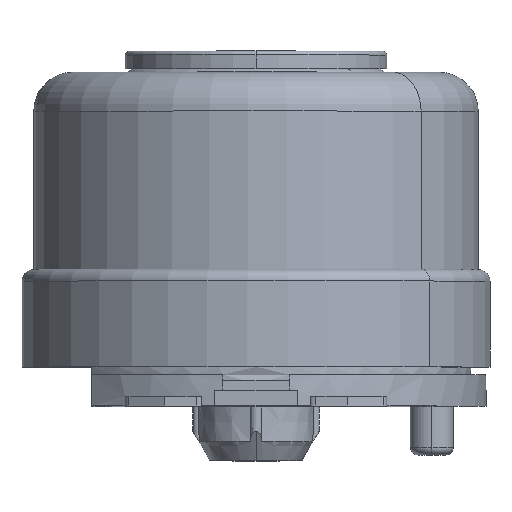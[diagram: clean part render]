
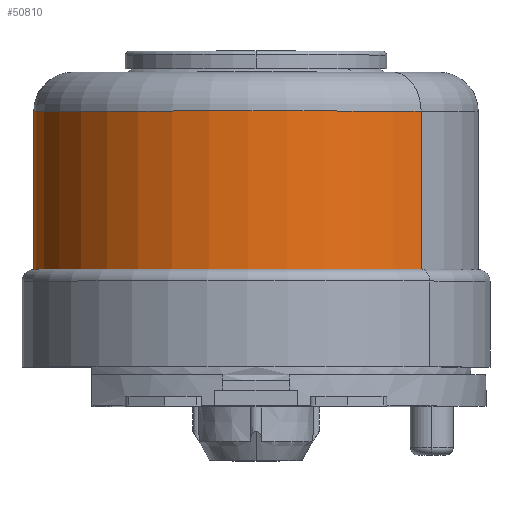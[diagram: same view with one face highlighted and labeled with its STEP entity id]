
A CAD part, top view. The second image highlights one B-rep face of the part: STEP entity #50810.
In plain terms, the highlighted cylindrical face has radius 5.695 mm (diameter 11.39 mm), a partial arc.
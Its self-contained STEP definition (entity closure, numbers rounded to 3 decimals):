
#12760=CARTESIAN_POINT('',(-4.227,0.584,
-3.817));
#12770=DIRECTION('',(0.,-1.,0.));
#12780=VECTOR('',#12770,1.);
#12790=LINE('',#12760,#12780);
#12800=CARTESIAN_POINT('',(-4.227,7.55,-3.817));
#12810=VERTEX_POINT('',#12800);
#12820=CARTESIAN_POINT('',(-4.227,3.5,-3.817));
#12830=VERTEX_POINT('',#12820);
#12840=EDGE_CURVE('',#12810,#12830,#12790,.T.);
#12860=CARTESIAN_POINT('',(0.,3.5,0.
));
#12870=DIRECTION('',(0.,-1.,0.));
#12880=DIRECTION('',(0.742,0.,0.67));
#12890=AXIS2_PLACEMENT_3D('',#12860,#12870,#12880);
#12900=CIRCLE('',#12890,5.695);
#12910=CARTESIAN_POINT('',(4.227,3.5,3.817));
#12920=VERTEX_POINT('',#12910);
#12950=CARTESIAN_POINT('',(4.227,0.584,
3.817));
#12960=DIRECTION('',(0.,-1.,0.));
#12970=VECTOR('',#12960,1.);
#12980=LINE('',#12950,#12970);
#12990=CARTESIAN_POINT('',(4.227,7.55,3.817));
#13000=VERTEX_POINT('',#12990);
#13010=EDGE_CURVE('',#13000,#12920,#12980,.T.);
#13030=CARTESIAN_POINT('',(0.,7.55,
0.));
#13040=DIRECTION('',(0.,1.,0.));
#13050=DIRECTION('',(0.742,0.,0.67));
#13060=AXIS2_PLACEMENT_3D('',#13030,#13040,#13050);
#13070=CIRCLE('',#13060,5.695);
#27050=EDGE_CURVE('',#12810,#13000,#13070,.T.);
#50690=CARTESIAN_POINT('',(0.,0.584,
0.));
#50700=DIRECTION('',(0.,-1.,0.));
#50710=DIRECTION('',(-0.742,0.,-0.67));
#50720=AXIS2_PLACEMENT_3D('',#50690,#50700,#50710);
#50730=CYLINDRICAL_SURFACE('',#50720,5.695);
#50740=ORIENTED_EDGE('',*,*,#12840,.T.);
#50750=ORIENTED_EDGE('',*,*,#27050,.F.);
#50760=ORIENTED_EDGE('',*,*,#13010,.F.);
#50770=EDGE_CURVE('',#12920,#12830,#12900,.T.);
#50780=ORIENTED_EDGE('',*,*,#50770,.F.);
#50790=EDGE_LOOP('',(#50780,#50760,#50750,#50740));
#50800=FACE_OUTER_BOUND('',#50790,.T.);
#50810=ADVANCED_FACE('',(#50800),#50730,.T.);
